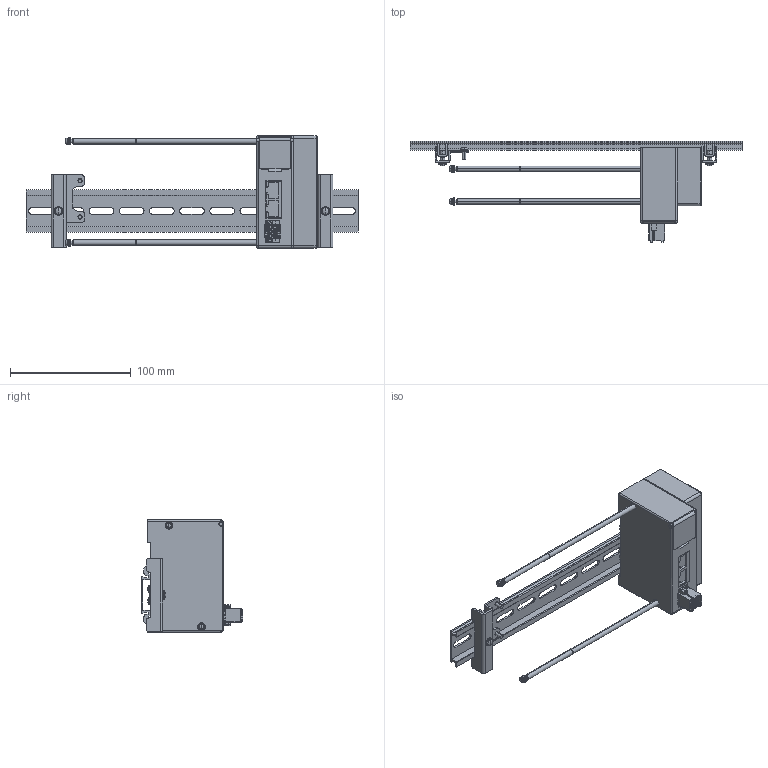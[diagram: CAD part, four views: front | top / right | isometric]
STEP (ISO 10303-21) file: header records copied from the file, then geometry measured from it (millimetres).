
FILE_DESCRIPTION( (''), '2;1');
FILE_NAME ('YS8EK3-7-DR.stp','2022-12-01T14:40:09',(''),(''),'spGate 12.6.6','','');
FILE_SCHEMA (('AUTOMOTIVE_DESIGN'));
Length unit declared in the file: millimetre
Products named in the file (4): Assembly; YS8EK3-7-DR-prt0; YS8EK3-7-DR-prt1; YS8EK3-7-DR-prt2
Assembly tree (4 placements, depth 2):
  Assembly
    YS8EK3-7-DR-prt0
    YS8EK3-7-DR-prt1
    YS8EK3-7-DR-prt2  x2
Bounding box: 275 x 84.4 x 93 mm (x, y, z)
Volume: 288293.5 mm3; surface area: 75522.4 mm2
Topology: 4 solids, 4 shells, 1047 faces, 2751 edges, 1765 vertices
Faces by surface type: plane 603, cylinder 338, bspline 90, sphere 16
Entity records: 48124 total; most frequent: CARTESIAN_POINT 6533, ORIENTED_EDGE 4780, DIRECTION 4522, COLOUR_RGB 3309, PRESENTATION_STYLE_ASSIGNMENT 3309, STYLED_ITEM 3309, EDGE_CURVE 2390, DRAUGHTING_PRE_DEFINED_CURVE_FONT 2390
